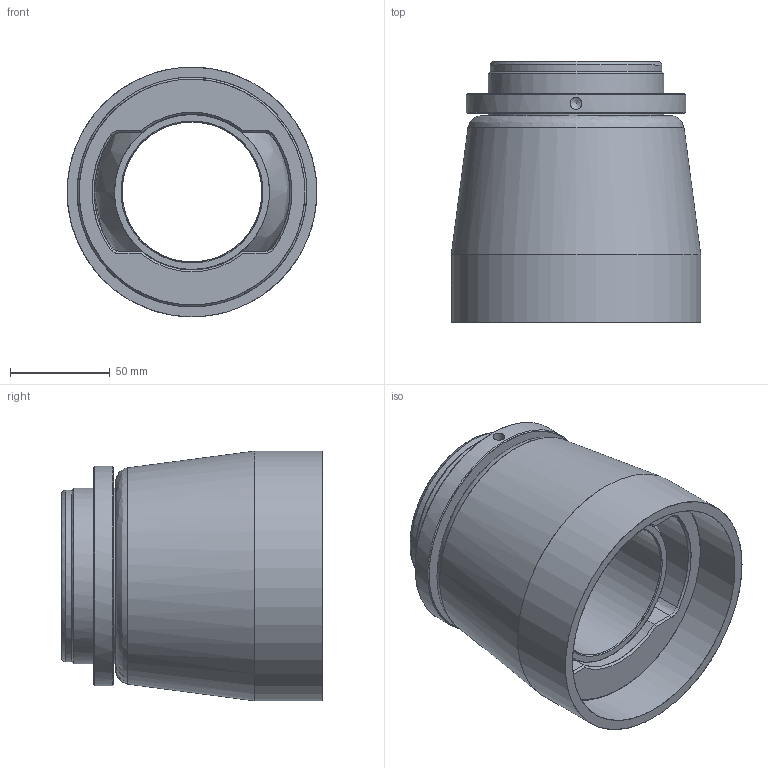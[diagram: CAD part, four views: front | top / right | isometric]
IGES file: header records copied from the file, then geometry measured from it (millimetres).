
Start section: Missler Software 3 rue Hermes, EUROPARC, 31520 Ramonville-Saint-Agne, France Tel   : +33 (0)5 61 00 03 00 Fax   : +33 (0)5 61 00 03 03 Email : sup.solid@topsolid.com
Global section: file name: Z:\J\Jp3\Palier\Palier-type1\3D TopSolid 2011\Serie 10.xx.xx\10.14.xx\10.14.07.igs; native system: TopSolid v611200 Missler Software; preprocessor: IGES preprocessor v100000; author: TAPIN; date: 120223.142825; units: millimetre
Bounding box: 125 x 130.5 x 125 mm (x, y, z)
Surface area: 196824.5 mm2 (no closed solid volume)
Topology: 0 solids, 0 shells, 67 faces, 1045 edges, 1021 vertices
Faces by surface type: bspline 67
